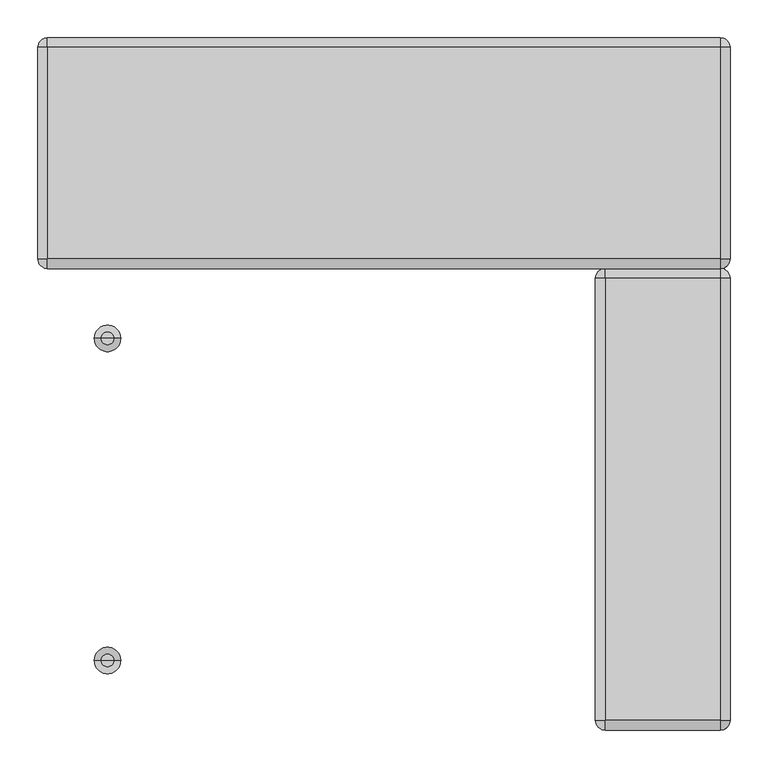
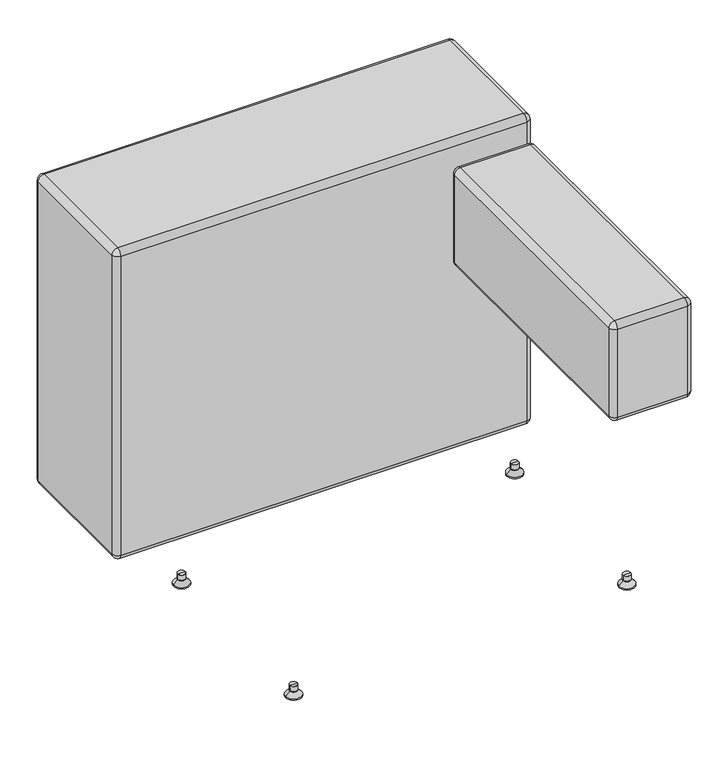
"""IFC4 building model written with IfcOpenShell, lengths in millimetres: furniture geometry, KFI Studios - Conversa : 24”x36” Seat - Left Corner, Small Arm."""

from ifc_helpers import new_model, si_unit, point, frame, origin, place, context, project, spatial, polyline, circle_curve, ellipse_curve, trimmed, source, transform, mapped, element, save
from ifc_brep_helpers import plane_surface, cylinder_surface, revolved_surface, advanced_brep


def furniture_8cec5439(model_context):
    return source(origin(), model_context, "Body", "AdvancedBrep", [
        advanced_brep(
        [(279.4, 292.1, 673.1), (279.4, -292.1, 673.1), (292.1, -292.1, 685.8), (292.1, 292.1, 685.8), (279.4, 292.1, 469.9), (279.4, -292.1, 469.9), (292.1, 292.1, 457.2), (292.1, -292.1, 457.2), (292.1, -304.8, 673.1), (444.5, -304.8, 673.1), (444.5, -292.1, 685.8), (292.1, -304.8, 469.9), (444.5, -304.8, 469.9), (444.5, -292.1, 457.2), (444.5, 292.1, 685.8), (444.5, 292.1, 457.2), (444.5, 304.8, 673.1), (292.1, 304.8, 673.1), (444.5, 304.8, 469.9), (292.1, 304.8, 469.9), (457.2, -292.1, 673.1), (457.2, 292.1, 673.1), (457.2, -292.1, 469.9), (457.2, 292.1, 469.9)],
        [
            (0, 1),
            (1, 2, circle_curve(frame((292.1, -292.1, 673.1), z_axis=(0.0, 1.0, 0.0), x_axis=(-1.0, 0.0, 0.0)), 12.7)),
            (2, 3),
            (3, 0, circle_curve(frame((292.1, 292.1, 673.1), z_axis=(0.0, -1.0, 0.0), x_axis=(-1.0, 0.0, 0.0)), 12.7)),
            (0, 4),
            (4, 5),
            (5, 1),
            (4, 6, circle_curve(frame((292.1, 292.1, 469.9), z_axis=(0.0, -1.0, 0.0), x_axis=(-1.0, 0.0, 0.0)), 12.7)),
            (6, 7),
            (7, 5, circle_curve(frame((292.1, -292.1, 469.9), z_axis=(0.0, 1.0, 0.0), x_axis=(-1.0, 0.0, 0.0)), 12.7)),
            (8, 9),
            (9, 10, circle_curve(frame((444.5, -292.1, 673.1), z_axis=(-1.0, 0.0, 0.0), x_axis=(0.0, 1.0, 0.0)), 12.7)),
            (10, 2),
            (2, 8, circle_curve(frame((292.1, -292.1, 673.1), z_axis=(1.0, 0.0, 0.0), x_axis=(0.0, 1.0, 0.0)), 12.7)),
            (8, 11),
            (11, 12),
            (12, 9),
            (11, 7, circle_curve(frame((292.1, -292.1, 469.9), z_axis=(1.0, 0.0, 0.0), x_axis=(0.0, 1.0, 0.0)), 12.7)),
            (7, 13),
            (13, 12, circle_curve(frame((444.5, -292.1, 469.9), z_axis=(-1.0, 0.0, 0.0), x_axis=(0.0, 1.0, 0.0)), 12.7)),
            (10, 14),
            (14, 3),
            (6, 15),
            (15, 13),
            (16, 17),
            (17, 3, circle_curve(frame((292.1, 292.1, 673.1), z_axis=(1.0, 0.0, 0.0), x_axis=(0.0, 1.0, 0.0)), 12.7)),
            (14, 16, circle_curve(frame((444.5, 292.1, 673.1), z_axis=(-1.0, 0.0, 0.0), x_axis=(0.0, 1.0, 0.0)), 12.7)),
            (16, 18),
            (18, 19),
            (19, 17),
            (18, 15, circle_curve(frame((444.5, 292.1, 469.9), z_axis=(-1.0, 0.0, 0.0), x_axis=(0.0, 1.0, 0.0)), 12.7)),
            (6, 19, circle_curve(frame((292.1, 292.1, 469.9), z_axis=(1.0, 0.0, 0.0), x_axis=(0.0, 1.0, 0.0)), 12.7)),
            (20, 21),
            (21, 14, circle_curve(frame((444.5, 292.1, 673.1), z_axis=(0.0, -1.0, 0.0), x_axis=(-1.0, 0.0, 0.0)), 12.7)),
            (10, 20, circle_curve(frame((444.5, -292.1, 673.1), z_axis=(0.0, 1.0, 0.0), x_axis=(-1.0, 0.0, 0.0)), 12.7)),
            (20, 22),
            (22, 23),
            (23, 21),
            (22, 13, circle_curve(frame((444.5, -292.1, 469.9), z_axis=(0.0, 1.0, 0.0), x_axis=(-1.0, 0.0, 0.0)), 12.7)),
            (15, 23, circle_curve(frame((444.5, 292.1, 469.9), z_axis=(0.0, -1.0, 0.0), x_axis=(-1.0, 0.0, 0.0)), 12.7)),
            (19, 4, circle_curve(frame((292.1, 292.1, 469.9), z_axis=(0.0, 0.0, 1.0), x_axis=(-1.0, 0.0, 0.0)), 12.7)),
            (0, 17, circle_curve(frame((292.1, 292.1, 673.1), z_axis=(0.0, 0.0, -1.0), x_axis=(-1.0, 0.0, 0.0)), 12.7)),
            (8, 1, circle_curve(frame((292.1, -292.1, 673.1), z_axis=(0.0, 0.0, -1.0), x_axis=(-1.0, 0.0, 0.0)), 12.7)),
            (5, 11, circle_curve(frame((292.1, -292.1, 469.9), z_axis=(0.0, 0.0, 1.0), x_axis=(-1.0, 0.0, 0.0)), 12.7)),
            (12, 22, circle_curve(frame((444.5, -292.1, 469.9), z_axis=(0.0, 0.0, 1.0), x_axis=(1.0, 0.0, 0.0)), 12.7)),
            (20, 9, circle_curve(frame((444.5, -292.1, 673.1), z_axis=(0.0, 0.0, -1.0), x_axis=(1.0, 0.0, 0.0)), 12.7)),
            (16, 21, circle_curve(frame((444.5, 292.1, 673.1), z_axis=(0.0, 0.0, -1.0), x_axis=(1.0, 0.0, 0.0)), 12.7)),
            (23, 18, circle_curve(frame((444.5, 292.1, 469.9), z_axis=(0.0, 0.0, 1.0), x_axis=(1.0, 0.0, 0.0)), 12.7)),
        ],
        [
            cylinder_surface(frame((292.1, -292.1, 673.1), z_axis=(0.0, -1.0, 0.0), x_axis=(-1.0, 0.0, 0.0)), 12.7),
            plane_surface(frame((279.4, -292.1, 673.1), z_axis=(-1.0, 0.0, 0.0), x_axis=(0.0, 1.0, 0.0))),
            cylinder_surface(frame((292.1, -292.1, 469.9), z_axis=(0.0, -1.0, 0.0), x_axis=(-1.0, 0.0, 0.0)), 12.7),
            cylinder_surface(frame((292.1, -292.1, 673.1), z_axis=(-1.0, 0.0, 0.0), x_axis=(0.0, 1.0, 0.0)), 12.7),
            plane_surface(frame((292.1, -304.8, 469.9), z_axis=(0.0, -1.0, 0.0), x_axis=(1.0, 0.0, 0.0))),
            cylinder_surface(frame((292.1, -292.1, 469.9), z_axis=(-1.0, 0.0, 0.0), x_axis=(0.0, 1.0, 0.0)), 12.7),
            plane_surface(frame((292.1, 292.1, 685.8), z_axis=(0.0, 0.0, 1.0), x_axis=(-1.0, 0.0, 0.0))),
            plane_surface(frame((292.1, 292.1, 457.2), z_axis=(0.0, 0.0, -1.0), x_axis=(1.0, 0.0, 0.0))),
            cylinder_surface(frame((292.1, 292.1, 673.1), z_axis=(-1.0, 0.0, 0.0), x_axis=(0.0, 1.0, 0.0)), 12.7),
            plane_surface(frame((292.1, 304.8, 673.1), z_axis=(0.0, 1.0, 0.0), x_axis=(1.0, 0.0, 0.0))),
            cylinder_surface(frame((292.1, 292.1, 469.9), z_axis=(-1.0, 0.0, 0.0), x_axis=(0.0, 1.0, 0.0)), 12.7),
            cylinder_surface(frame((444.5, -292.1, 673.1), z_axis=(0.0, -1.0, 0.0), x_axis=(-1.0, 0.0, 0.0)), 12.7),
            plane_surface(frame((457.2, -292.1, 469.9), z_axis=(1.0, 0.0, 0.0), x_axis=(0.0, 1.0, 0.0))),
            cylinder_surface(frame((444.5, -292.1, 469.9), z_axis=(0.0, -1.0, 0.0), x_axis=(-1.0, 0.0, 0.0)), 12.7),
            cylinder_surface(frame((292.1, 292.1, 685.8), z_axis=(0.0, 0.0, 1.0), x_axis=(-1.0, 0.0, 0.0)), 12.7),
            revolved_surface(trimmed(ellipse_curve(frame((292.1, 292.1, 469.9), z_axis=(0.0, 1.0, 0.0), x_axis=(0.0, 0.0, 1.0)), 12.7, 12.7), [point((292.1, 292.1, 457.2))], [point((279.4, 292.1, 469.9))], True, "CARTESIAN"), (292.1, 292.1, 685.8), (0.0, 0.0, 1.0)),
            revolved_surface(trimmed(ellipse_curve(frame((292.1, 292.1, 673.1), z_axis=(0.0, 1.0, 0.0), x_axis=(0.0, 0.0, 1.0)), 12.7, 12.7), [point((279.4, 292.1, 673.1))], [point((292.1, 292.1, 685.8))], True, "CARTESIAN"), (292.1, 292.1, 685.8), (0.0, 0.0, 1.0)),
            cylinder_surface(frame((292.1, -292.1, 535.5189642), z_axis=(0.0, 0.0, -1.0), x_axis=(-1.0, 0.0, 0.0)), 12.7),
            revolved_surface(trimmed(ellipse_curve(frame((292.1, -292.1, 673.1), z_axis=(0.0, -1.0, 0.0), x_axis=(1.0, 0.0, 0.0)), 12.7, 12.7), [point((292.1, -292.1, 685.8))], [point((279.4, -292.1, 673.1))], True, "CARTESIAN"), (292.1, -292.1, 535.5189642), (0.0, 0.0, -1.0)),
            revolved_surface(trimmed(ellipse_curve(frame((292.1, -292.1, 469.9), z_axis=(0.0, -1.0, 0.0), x_axis=(1.0, 0.0, 0.0)), 12.7, 12.7), [point((279.4, -292.1, 469.9))], [point((292.1, -292.1, 457.2))], True, "CARTESIAN"), (292.1, -292.1, 535.5189642), (0.0, 0.0, -1.0)),
            cylinder_surface(frame((444.5, -292.1, 685.8), z_axis=(0.0, 0.0, 1.0), x_axis=(1.0, 0.0, 0.0)), 12.7),
            revolved_surface(trimmed(ellipse_curve(frame((444.5, -292.1, 469.9), z_axis=(0.0, -1.0, 0.0), x_axis=(1.0, 0.0, 0.0)), 12.7, 12.7), [point((444.5, -292.1, 457.2))], [point((457.2, -292.1, 469.9))], True, "CARTESIAN"), (444.5, -292.1, 685.8), (0.0, 0.0, 1.0)),
            revolved_surface(trimmed(ellipse_curve(frame((444.5, -292.1, 673.1), z_axis=(0.0, -1.0, 0.0), x_axis=(1.0, 0.0, 0.0)), 12.7, 12.7), [point((457.2, -292.1, 673.1))], [point((444.5, -292.1, 685.8))], True, "CARTESIAN"), (444.5, -292.1, 685.8), (0.0, 0.0, 1.0)),
            cylinder_surface(frame((444.5, 292.1, 535.5189642), z_axis=(0.0, 0.0, -1.0), x_axis=(1.0, 0.0, 0.0)), 12.7),
            revolved_surface(trimmed(ellipse_curve(frame((444.5, 292.1, 673.1), z_axis=(0.0, 1.0, 0.0), x_axis=(0.0, 0.0, 1.0)), 12.7, 12.7), [point((444.5, 292.1, 685.8))], [point((457.2, 292.1, 673.1))], True, "CARTESIAN"), (444.5, 292.1, 535.5189642), (0.0, 0.0, -1.0)),
            revolved_surface(trimmed(ellipse_curve(frame((444.5, 292.1, 469.9), z_axis=(0.0, 1.0, 0.0), x_axis=(0.0, 0.0, 1.0)), 12.7, 12.7), [point((457.2, 292.1, 469.9))], [point((444.5, 292.1, 457.2))], True, "CARTESIAN"), (444.5, 292.1, 535.5189642), (0.0, 0.0, -1.0)),
        ],
        [
            (0, [[1, 2, 3, 4]]),
            (1, [[-1, 5, 6, 7]]),
            (2, [[-6, 8, 9, 10]]),
            (3, [[11, 12, 13, 14]]),
            (4, [[-11, 15, 16, 17]]),
            (5, [[-16, 18, 19, 20]]),
            (6, [[-3, -13, 21, 22]]),
            (7, [[-9, 23, 24, -19]]),
            (8, [[25, 26, -22, 27]]),
            (9, [[-25, 28, 29, 30]]),
            (10, [[-29, 31, -23, 32]]),
            (11, [[33, 34, -21, 35]]),
            (12, [[-33, 36, 37, 38]]),
            (13, [[-37, 39, -24, 40]]),
            (14, [[41, -5, 42, -30]]),
            (15, [[-41, -32, -8]]),
            (16, [[-42, -4, -26]]),
            (17, [[43, -7, 44, -15]]),
            (18, [[-43, -14, -2]]),
            (19, [[-44, -10, -18]]),
            (20, [[45, -36, 46, -17]]),
            (21, [[-45, -20, -39]]),
            (22, [[-46, -35, -12]]),
            (23, [[47, -38, 48, -28]]),
            (24, [[-47, -27, -34]]),
            (25, [[-48, -40, -31]]),
        ],
    ),
        advanced_brep(
        [(373.3895895, 517.525, 25.4), (365.125, 517.525, 25.4), (356.8604105, 517.525, 25.4), (373.3895895, 517.525, 14.2843611), (356.8604105, 517.525, 14.2843611), (371.7876354, 517.525, 14.2843611), (358.4623646, 517.525, 14.2843611), (371.7876354, 517.525, 12.7064551), (358.4623646, 517.525, 12.7064551), (373.3890671, 517.525, 12.7064551), (356.8609329, 517.525, 12.7064551), (382.5741215, 517.525, 3.1950529), (347.6758785, 517.525, 3.1950529), (382.5741215, 517.525, 0.0), (347.6758785, 517.525, 0.0), (365.125, 517.525, 0.0)],
        [
            (0, 1),
            (1, 2),
            (2, 0, circle_curve(frame((365.125, 517.525, 25.4), z_axis=(0.0, 0.0, 1.0), x_axis=(-1.0, 0.0, 0.0)), 8.2645895)),
            (0, 2, circle_curve(frame((365.125, 517.525, 25.4), z_axis=(0.0, 0.0, 1.0), x_axis=(-1.0, 0.0, 0.0)), 8.2645895)),
            (3, 0),
            (2, 4),
            (4, 3, circle_curve(frame((365.125, 517.525, 14.2843611), z_axis=(0.0, 0.0, 1.0), x_axis=(-1.0, 0.0, 0.0)), 8.2645895)),
            (3, 4, circle_curve(frame((365.125, 517.525, 14.2843611), z_axis=(0.0, 0.0, 1.0), x_axis=(-1.0, 0.0, 0.0)), 8.2645895)),
            (5, 3),
            (4, 6),
            (6, 5, circle_curve(frame((365.125, 517.525, 14.2843611), z_axis=(0.0, 0.0, 1.0), x_axis=(-1.0, 0.0, 0.0)), 6.6626354)),
            (5, 6, circle_curve(frame((365.125, 517.525, 14.2843611), z_axis=(0.0, 0.0, 1.0), x_axis=(-1.0, 0.0, 0.0)), 6.6626354)),
            (7, 5),
            (6, 8),
            (8, 7, circle_curve(frame((365.125, 517.525, 12.7064551), z_axis=(0.0, 0.0, 1.0), x_axis=(-1.0, 0.0, 0.0)), 6.6626354)),
            (7, 8, circle_curve(frame((365.125, 517.525, 12.7064551), z_axis=(0.0, 0.0, 1.0), x_axis=(-1.0, 0.0, 0.0)), 6.6626354)),
            (9, 7),
            (8, 10),
            (10, 9, circle_curve(frame((365.125, 517.525, 12.7064551), z_axis=(0.0, 0.0, 1.0), x_axis=(-1.0, 0.0, 0.0)), 8.2640671)),
            (9, 10, circle_curve(frame((365.125, 517.525, 12.7064551), z_axis=(0.0, 0.0, 1.0), x_axis=(-1.0, 0.0, 0.0)), 8.2640671)),
            (11, 9),
            (10, 12),
            (12, 11, circle_curve(frame((365.125, 517.525, 3.1950529), z_axis=(0.0, 0.0, 1.0), x_axis=(-1.0, 0.0, 0.0)), 17.4491215)),
            (11, 12, circle_curve(frame((365.125, 517.525, 3.1950529), z_axis=(0.0, 0.0, 1.0), x_axis=(-1.0, 0.0, 0.0)), 17.4491215)),
            (13, 11),
            (12, 14),
            (14, 13, circle_curve(frame((365.125, 517.525, 0.0), z_axis=(0.0, 0.0, 1.0), x_axis=(-1.0, 0.0, 0.0)), 17.4491215)),
            (13, 14, circle_curve(frame((365.125, 517.525, 0.0), z_axis=(0.0, 0.0, 1.0), x_axis=(-1.0, 0.0, 0.0)), 17.4491215)),
            (15, 13),
            (14, 15),
        ],
        [
            plane_surface(frame((365.125, 517.525, 25.4), z_axis=(0.0, 0.0, 1.0), x_axis=(-1.0, 0.0, 0.0))),
            cylinder_surface(frame((365.125, 517.525, 33.820929), z_axis=(0.0, 0.0, -1.0), x_axis=(-1.0, 0.0, 0.0)), 8.2645895),
            plane_surface(frame((365.125, 517.525, 14.2843611), z_axis=(0.0, 0.0, -1.0), x_axis=(-1.0, 0.0, 0.0))),
            cylinder_surface(frame((365.125, 517.525, 33.820929), z_axis=(0.0, 0.0, -1.0), x_axis=(-1.0, 0.0, 0.0)), 6.6626354),
            plane_surface(frame((365.125, 517.525, 12.7064551), z_axis=(0.0, 0.0, 1.0), x_axis=(-1.0, 0.0, 0.0))),
            revolved_surface(polyline([(356.8609329, 517.525, 12.7064551), (347.6758785, 517.525, 3.1950529)]), (365.125, 517.525, 33.820929), (0.0, 0.0, -1.0)),
            cylinder_surface(frame((365.125, 517.525, 33.820929), z_axis=(0.0, 0.0, -1.0), x_axis=(-1.0, 0.0, 0.0)), 17.4491215),
            plane_surface(frame((365.125, 517.525, 0.0), z_axis=(0.0, 0.0, -1.0), x_axis=(-1.0, 0.0, 0.0))),
        ],
        [
            (0, [[1, 2, 3]]),
            (0, [[-2, -1, 4]]),
            (1, [[5, -3, 6, 7]]),
            (1, [[-6, -4, -5, 8]]),
            (2, [[9, -7, 10, 11]]),
            (2, [[-10, -8, -9, 12]]),
            (3, [[13, -11, 14, 15]]),
            (3, [[-14, -12, -13, 16]]),
            (4, [[17, -15, 18, 19]]),
            (4, [[-18, -16, -17, 20]]),
            (5, [[21, -19, 22, 23]]),
            (5, [[-22, -20, -21, 24]]),
            (6, [[25, -23, 26, 27]]),
            (6, [[-26, -24, -25, 28]]),
            (7, [[29, -27, 30]]),
            (7, [[-30, -28, -29]]),
        ],
    ),
        advanced_brep(
        [(-356.8604105, 517.525, 25.4), (-365.125, 517.525, 25.4), (-373.3895895, 517.525, 25.4), (-356.8604105, 517.525, 14.2843611), (-373.3895895, 517.525, 14.2843611), (-358.4623646, 517.525, 14.2843611), (-371.7876354, 517.525, 14.2843611), (-358.4623646, 517.525, 12.7064551), (-371.7876354, 517.525, 12.7064551), (-356.8609329, 517.525, 12.7064551), (-373.3890671, 517.525, 12.7064551), (-347.6758785, 517.525, 3.1950529), (-382.5741215, 517.525, 3.1950529), (-347.6758785, 517.525, 0.0), (-382.5741215, 517.525, 0.0), (-365.125, 517.525, 0.0)],
        [
            (0, 1),
            (1, 2),
            (2, 0, circle_curve(frame((-365.125, 517.525, 25.4), z_axis=(0.0, 0.0, 1.0), x_axis=(-1.0, 0.0, 0.0)), 8.2645895)),
            (0, 2, circle_curve(frame((-365.125, 517.525, 25.4), z_axis=(0.0, 0.0, 1.0), x_axis=(-1.0, 0.0, 0.0)), 8.2645895)),
            (3, 0),
            (2, 4),
            (4, 3, circle_curve(frame((-365.125, 517.525, 14.2843611), z_axis=(0.0, 0.0, 1.0), x_axis=(-1.0, 0.0, 0.0)), 8.2645895)),
            (3, 4, circle_curve(frame((-365.125, 517.525, 14.2843611), z_axis=(0.0, 0.0, 1.0), x_axis=(-1.0, 0.0, 0.0)), 8.2645895)),
            (5, 3),
            (4, 6),
            (6, 5, circle_curve(frame((-365.125, 517.525, 14.2843611), z_axis=(0.0, 0.0, 1.0), x_axis=(-1.0, 0.0, 0.0)), 6.6626354)),
            (5, 6, circle_curve(frame((-365.125, 517.525, 14.2843611), z_axis=(0.0, 0.0, 1.0), x_axis=(-1.0, 0.0, 0.0)), 6.6626354)),
            (7, 5),
            (6, 8),
            (8, 7, circle_curve(frame((-365.125, 517.525, 12.7064551), z_axis=(0.0, 0.0, 1.0), x_axis=(-1.0, 0.0, 0.0)), 6.6626354)),
            (7, 8, circle_curve(frame((-365.125, 517.525, 12.7064551), z_axis=(0.0, 0.0, 1.0), x_axis=(-1.0, 0.0, 0.0)), 6.6626354)),
            (9, 7),
            (8, 10),
            (10, 9, circle_curve(frame((-365.125, 517.525, 12.7064551), z_axis=(0.0, 0.0, 1.0), x_axis=(-1.0, 0.0, 0.0)), 8.2640671)),
            (9, 10, circle_curve(frame((-365.125, 517.525, 12.7064551), z_axis=(0.0, 0.0, 1.0), x_axis=(-1.0, 0.0, 0.0)), 8.2640671)),
            (11, 9),
            (10, 12),
            (12, 11, circle_curve(frame((-365.125, 517.525, 3.1950529), z_axis=(0.0, 0.0, 1.0), x_axis=(-1.0, 0.0, 0.0)), 17.4491215)),
            (11, 12, circle_curve(frame((-365.125, 517.525, 3.1950529), z_axis=(0.0, 0.0, 1.0), x_axis=(-1.0, 0.0, 0.0)), 17.4491215)),
            (13, 11),
            (12, 14),
            (14, 13, circle_curve(frame((-365.125, 517.525, 0.0), z_axis=(0.0, 0.0, 1.0), x_axis=(-1.0, 0.0, 0.0)), 17.4491215)),
            (13, 14, circle_curve(frame((-365.125, 517.525, 0.0), z_axis=(0.0, 0.0, 1.0), x_axis=(-1.0, 0.0, 0.0)), 17.4491215)),
            (15, 13),
            (14, 15),
        ],
        [
            plane_surface(frame((-365.125, 517.525, 25.4), z_axis=(0.0, 0.0, 1.0), x_axis=(-1.0, 0.0, 0.0))),
            cylinder_surface(frame((-365.125, 517.525, 33.820929), z_axis=(0.0, 0.0, -1.0), x_axis=(-1.0, 0.0, 0.0)), 8.2645895),
            plane_surface(frame((-365.125, 517.525, 14.2843611), z_axis=(0.0, 0.0, -1.0), x_axis=(-1.0, 0.0, 0.0))),
            cylinder_surface(frame((-365.125, 517.525, 33.820929), z_axis=(0.0, 0.0, -1.0), x_axis=(-1.0, 0.0, 0.0)), 6.6626354),
            plane_surface(frame((-365.125, 517.525, 12.7064551), z_axis=(0.0, 0.0, 1.0), x_axis=(-1.0, 0.0, 0.0))),
            revolved_surface(polyline([(-373.3890671, 517.525, 12.7064551), (-382.5741215, 517.525, 3.1950529)]), (-365.125, 517.525, 33.820929), (0.0, 0.0, -1.0)),
            cylinder_surface(frame((-365.125, 517.525, 33.820929), z_axis=(0.0, 0.0, -1.0), x_axis=(-1.0, 0.0, 0.0)), 17.4491215),
            plane_surface(frame((-365.125, 517.525, 0.0), z_axis=(0.0, 0.0, -1.0), x_axis=(-1.0, 0.0, 0.0))),
        ],
        [
            (0, [[1, 2, 3]]),
            (0, [[-2, -1, 4]]),
            (1, [[5, -3, 6, 7]]),
            (1, [[-6, -4, -5, 8]]),
            (2, [[9, -7, 10, 11]]),
            (2, [[-10, -8, -9, 12]]),
            (3, [[13, -11, 14, 15]]),
            (3, [[-14, -12, -13, 16]]),
            (4, [[17, -15, 18, 19]]),
            (4, [[-18, -16, -17, 20]]),
            (5, [[21, -19, 22, 23]]),
            (5, [[-22, -20, -21, 24]]),
            (6, [[25, -23, 26, 27]]),
            (6, [[-26, -24, -25, 28]]),
            (7, [[29, -27, 30]]),
            (7, [[-30, -28, -29]]),
        ],
    ),
        advanced_brep(
        [(-457.2, 596.9, 730.25), (-457.2, 317.5, 730.25), (-444.5, 317.5, 742.95), (-444.5, 596.9, 742.95), (-457.2, 596.9, 38.1), (-457.2, 317.5, 38.1), (-444.5, 596.9, 25.4), (-444.5, 317.5, 25.4), (-444.5, 304.8, 730.25), (444.5, 304.8, 730.25), (444.5, 317.5, 742.95), (-444.5, 304.8, 38.1), (444.5, 304.8, 38.1), (444.5, 317.5, 25.4), (444.5, 596.9, 742.95), (444.5, 596.9, 25.4), (444.5, 609.6, 730.25), (-444.5, 609.6, 730.25), (444.5, 609.6, 38.1), (-444.5, 609.6, 38.1), (457.2, 317.5, 730.25), (457.2, 596.9, 730.25), (457.2, 317.5, 38.1), (457.2, 596.9, 38.1)],
        [
            (0, 1),
            (1, 2, circle_curve(frame((-444.5, 317.5, 730.25), z_axis=(0.0, 1.0, 0.0), x_axis=(-1.0, 0.0, 0.0)), 12.7)),
            (2, 3),
            (3, 0, circle_curve(frame((-444.5, 596.9, 730.25), z_axis=(0.0, -1.0, 0.0), x_axis=(-1.0, 0.0, 0.0)), 12.7)),
            (0, 4),
            (4, 5),
            (5, 1),
            (4, 6, circle_curve(frame((-444.5, 596.9, 38.1), z_axis=(0.0, -1.0, 0.0), x_axis=(-1.0, 0.0, 0.0)), 12.7)),
            (6, 7),
            (7, 5, circle_curve(frame((-444.5, 317.5, 38.1), z_axis=(0.0, 1.0, 0.0), x_axis=(-1.0, 0.0, 0.0)), 12.7)),
            (8, 9),
            (9, 10, circle_curve(frame((444.5, 317.5, 730.25), z_axis=(-1.0, 0.0, 0.0), x_axis=(0.0, 1.0, 0.0)), 12.7)),
            (10, 2),
            (2, 8, circle_curve(frame((-444.5, 317.5, 730.25), z_axis=(1.0, 0.0, 0.0), x_axis=(0.0, 1.0, 0.0)), 12.7)),
            (8, 11),
            (11, 12),
            (12, 9),
            (11, 7, circle_curve(frame((-444.5, 317.5, 38.1), z_axis=(1.0, 0.0, 0.0), x_axis=(0.0, 1.0, 0.0)), 12.7)),
            (7, 13),
            (13, 12, circle_curve(frame((444.5, 317.5, 38.1), z_axis=(-1.0, 0.0, 0.0), x_axis=(0.0, 1.0, 0.0)), 12.7)),
            (10, 14),
            (14, 3),
            (6, 15),
            (15, 13),
            (16, 17),
            (17, 3, circle_curve(frame((-444.5, 596.9, 730.25), z_axis=(1.0, 0.0, 0.0), x_axis=(0.0, 1.0, 0.0)), 12.7)),
            (14, 16, circle_curve(frame((444.5, 596.9, 730.25), z_axis=(-1.0, 0.0, 0.0), x_axis=(0.0, 1.0, 0.0)), 12.7)),
            (16, 18),
            (18, 19),
            (19, 17),
            (18, 15, circle_curve(frame((444.5, 596.9, 38.1), z_axis=(-1.0, 0.0, 0.0), x_axis=(0.0, 1.0, 0.0)), 12.7)),
            (6, 19, circle_curve(frame((-444.5, 596.9, 38.1), z_axis=(1.0, 0.0, 0.0), x_axis=(0.0, 1.0, 0.0)), 12.7)),
            (20, 21),
            (21, 14, circle_curve(frame((444.5, 596.9, 730.25), z_axis=(0.0, -1.0, 0.0), x_axis=(-1.0, 0.0, 0.0)), 12.7)),
            (10, 20, circle_curve(frame((444.5, 317.5, 730.25), z_axis=(0.0, 1.0, 0.0), x_axis=(-1.0, 0.0, 0.0)), 12.7)),
            (20, 22),
            (22, 23),
            (23, 21),
            (22, 13, circle_curve(frame((444.5, 317.5, 38.1), z_axis=(0.0, 1.0, 0.0), x_axis=(-1.0, 0.0, 0.0)), 12.7)),
            (15, 23, circle_curve(frame((444.5, 596.9, 38.1), z_axis=(0.0, -1.0, 0.0), x_axis=(-1.0, 0.0, 0.0)), 12.7)),
            (19, 4, circle_curve(frame((-444.5, 596.9, 38.1), z_axis=(0.0, 0.0, 1.0), x_axis=(-1.0, 0.0, 0.0)), 12.7)),
            (0, 17, circle_curve(frame((-444.5, 596.9, 730.25), z_axis=(0.0, 0.0, -1.0), x_axis=(-1.0, 0.0, 0.0)), 12.7)),
            (8, 1, circle_curve(frame((-444.5, 317.5, 730.25), z_axis=(0.0, 0.0, -1.0), x_axis=(-1.0, 0.0, 0.0)), 12.7)),
            (5, 11, circle_curve(frame((-444.5, 317.5, 38.1), z_axis=(0.0, 0.0, 1.0), x_axis=(-1.0, 0.0, 0.0)), 12.7)),
            (12, 22, circle_curve(frame((444.5, 317.5, 38.1), z_axis=(0.0, 0.0, 1.0), x_axis=(1.0, 0.0, 0.0)), 12.7)),
            (20, 9, circle_curve(frame((444.5, 317.5, 730.25), z_axis=(0.0, 0.0, -1.0), x_axis=(1.0, 0.0, 0.0)), 12.7)),
            (16, 21, circle_curve(frame((444.5, 596.9, 730.25), z_axis=(0.0, 0.0, -1.0), x_axis=(1.0, 0.0, 0.0)), 12.7)),
            (23, 18, circle_curve(frame((444.5, 596.9, 38.1), z_axis=(0.0, 0.0, 1.0), x_axis=(1.0, 0.0, 0.0)), 12.7)),
        ],
        [
            cylinder_surface(frame((-444.5, 317.5, 730.25), z_axis=(0.0, -1.0, 0.0), x_axis=(-1.0, 0.0, 0.0)), 12.7),
            plane_surface(frame((-457.2, 317.5, 730.25), z_axis=(-1.0, 0.0, 0.0), x_axis=(0.0, 1.0, 0.0))),
            cylinder_surface(frame((-444.5, 317.5, 38.1), z_axis=(0.0, -1.0, 0.0), x_axis=(-1.0, 0.0, 0.0)), 12.7),
            cylinder_surface(frame((-444.5, 317.5, 730.25), z_axis=(-1.0, 0.0, 0.0), x_axis=(0.0, 1.0, 0.0)), 12.7),
            plane_surface(frame((-444.5, 304.8, 38.1), z_axis=(0.0, -1.0, 0.0), x_axis=(1.0, 0.0, 0.0))),
            cylinder_surface(frame((-444.5, 317.5, 38.1), z_axis=(-1.0, 0.0, 0.0), x_axis=(0.0, 1.0, 0.0)), 12.7),
            plane_surface(frame((-444.5, 596.9, 742.95), z_axis=(0.0, 0.0, 1.0), x_axis=(-1.0, 0.0, 0.0))),
            plane_surface(frame((-444.5, 596.9, 25.4), z_axis=(0.0, 0.0, -1.0), x_axis=(1.0, 0.0, 0.0))),
            cylinder_surface(frame((-444.5, 596.9, 730.25), z_axis=(-1.0, 0.0, 0.0), x_axis=(0.0, 1.0, 0.0)), 12.7),
            plane_surface(frame((-444.5, 609.6, 730.25), z_axis=(0.0, 1.0, 0.0), x_axis=(1.0, 0.0, 0.0))),
            cylinder_surface(frame((-444.5, 596.9, 38.1), z_axis=(-1.0, 0.0, 0.0), x_axis=(0.0, 1.0, 0.0)), 12.7),
            cylinder_surface(frame((444.5, 317.5, 730.25), z_axis=(0.0, -1.0, 0.0), x_axis=(-1.0, 0.0, 0.0)), 12.7),
            plane_surface(frame((457.2, 317.5, 38.1), z_axis=(1.0, 0.0, 0.0), x_axis=(0.0, 1.0, 0.0))),
            cylinder_surface(frame((444.5, 317.5, 38.1), z_axis=(0.0, -1.0, 0.0), x_axis=(-1.0, 0.0, 0.0)), 12.7),
            cylinder_surface(frame((-444.5, 596.9, 742.95), z_axis=(0.0, 0.0, 1.0), x_axis=(-1.0, 0.0, 0.0)), 12.7),
            revolved_surface(trimmed(ellipse_curve(frame((-444.5, 596.9, 38.1), z_axis=(0.0, 1.0, 0.0), x_axis=(0.0, 0.0, 1.0)), 12.7, 12.7), [point((-444.5, 596.9, 25.4))], [point((-457.2, 596.9, 38.1))], True, "CARTESIAN"), (-444.5, 596.9, 742.95), (0.0, 0.0, 1.0)),
            revolved_surface(trimmed(ellipse_curve(frame((-444.5, 596.9, 730.25), z_axis=(0.0, 1.0, 0.0), x_axis=(0.0, 0.0, 1.0)), 12.7, 12.7), [point((-457.2, 596.9, 730.25))], [point((-444.5, 596.9, 742.95))], True, "CARTESIAN"), (-444.5, 596.9, 742.95), (0.0, 0.0, 1.0)),
            cylinder_surface(frame((-444.5, 317.5, 592.6689642), z_axis=(0.0, 0.0, -1.0), x_axis=(-1.0, 0.0, 0.0)), 12.7),
            revolved_surface(trimmed(ellipse_curve(frame((-444.5, 317.5, 730.25), z_axis=(0.0, -1.0, 0.0), x_axis=(1.0, 0.0, 0.0)), 12.7, 12.7), [point((-444.5, 317.5, 742.95))], [point((-457.2, 317.5, 730.25))], True, "CARTESIAN"), (-444.5, 317.5, 592.6689642), (0.0, 0.0, -1.0)),
            revolved_surface(trimmed(ellipse_curve(frame((-444.5, 317.5, 38.1), z_axis=(0.0, -1.0, 0.0), x_axis=(1.0, 0.0, 0.0)), 12.7, 12.7), [point((-457.2, 317.5, 38.1))], [point((-444.5, 317.5, 25.4))], True, "CARTESIAN"), (-444.5, 317.5, 592.6689642), (0.0, 0.0, -1.0)),
            cylinder_surface(frame((444.5, 317.5, 742.95), z_axis=(0.0, 0.0, 1.0), x_axis=(1.0, 0.0, 0.0)), 12.7),
            revolved_surface(trimmed(ellipse_curve(frame((444.5, 317.5, 38.1), z_axis=(0.0, -1.0, 0.0), x_axis=(1.0, 0.0, 0.0)), 12.7, 12.7), [point((444.5, 317.5, 25.4))], [point((457.2, 317.5, 38.1))], True, "CARTESIAN"), (444.5, 317.5, 742.95), (0.0, 0.0, 1.0)),
            revolved_surface(trimmed(ellipse_curve(frame((444.5, 317.5, 730.25), z_axis=(0.0, -1.0, 0.0), x_axis=(1.0, 0.0, 0.0)), 12.7, 12.7), [point((457.2, 317.5, 730.25))], [point((444.5, 317.5, 742.95))], True, "CARTESIAN"), (444.5, 317.5, 742.95), (0.0, 0.0, 1.0)),
            cylinder_surface(frame((444.5, 596.9, 592.6689642), z_axis=(0.0, 0.0, -1.0), x_axis=(1.0, 0.0, 0.0)), 12.7),
            revolved_surface(trimmed(ellipse_curve(frame((444.5, 596.9, 730.25), z_axis=(0.0, 1.0, 0.0), x_axis=(0.0, 0.0, 1.0)), 12.7, 12.7), [point((444.5, 596.9, 742.95))], [point((457.2, 596.9, 730.25))], True, "CARTESIAN"), (444.5, 596.9, 592.6689642), (0.0, 0.0, -1.0)),
            revolved_surface(trimmed(ellipse_curve(frame((444.5, 596.9, 38.1), z_axis=(0.0, 1.0, 0.0), x_axis=(0.0, 0.0, 1.0)), 12.7, 12.7), [point((457.2, 596.9, 38.1))], [point((444.5, 596.9, 25.4))], True, "CARTESIAN"), (444.5, 596.9, 592.6689642), (0.0, 0.0, -1.0)),
        ],
        [
            (0, [[1, 2, 3, 4]]),
            (1, [[-1, 5, 6, 7]]),
            (2, [[-6, 8, 9, 10]]),
            (3, [[11, 12, 13, 14]]),
            (4, [[-11, 15, 16, 17]]),
            (5, [[-16, 18, 19, 20]]),
            (6, [[-3, -13, 21, 22]]),
            (7, [[-9, 23, 24, -19]]),
            (8, [[25, 26, -22, 27]]),
            (9, [[-25, 28, 29, 30]]),
            (10, [[-29, 31, -23, 32]]),
            (11, [[33, 34, -21, 35]]),
            (12, [[-33, 36, 37, 38]]),
            (13, [[-37, 39, -24, 40]]),
            (14, [[41, -5, 42, -30]]),
            (15, [[-41, -32, -8]]),
            (16, [[-42, -4, -26]]),
            (17, [[43, -7, 44, -15]]),
            (18, [[-43, -14, -2]]),
            (19, [[-44, -10, -18]]),
            (20, [[45, -36, 46, -17]]),
            (21, [[-45, -20, -39]]),
            (22, [[-46, -35, -12]]),
            (23, [[47, -38, 48, -28]]),
            (24, [[-47, -27, -34]]),
            (25, [[-48, -40, -31]]),
        ],
    ),
        advanced_brep(
        [(373.3895895, 212.725, 25.4), (365.125, 212.725, 25.4), (356.8604105, 212.725, 25.4), (373.3895895, 212.725, 14.2843611), (356.8604105, 212.725, 14.2843611), (371.7876354, 212.725, 14.2843611), (358.4623646, 212.725, 14.2843611), (371.7876354, 212.725, 12.7064551), (358.4623646, 212.725, 12.7064551), (373.3890671, 212.725, 12.7064551), (356.8609329, 212.725, 12.7064551), (382.5741215, 212.725, 3.1950529), (347.6758785, 212.725, 3.1950529), (382.5741215, 212.725, 0.0), (347.6758785, 212.725, 0.0), (365.125, 212.725, 0.0)],
        [
            (0, 1),
            (1, 2),
            (2, 0, circle_curve(frame((365.125, 212.725, 25.4), z_axis=(0.0, 0.0, 1.0), x_axis=(-1.0, 0.0, 0.0)), 8.2645895)),
            (0, 2, circle_curve(frame((365.125, 212.725, 25.4), z_axis=(0.0, 0.0, 1.0), x_axis=(-1.0, 0.0, 0.0)), 8.2645895)),
            (3, 0),
            (2, 4),
            (4, 3, circle_curve(frame((365.125, 212.725, 14.2843611), z_axis=(0.0, 0.0, 1.0), x_axis=(-1.0, 0.0, 0.0)), 8.2645895)),
            (3, 4, circle_curve(frame((365.125, 212.725, 14.2843611), z_axis=(0.0, 0.0, 1.0), x_axis=(-1.0, 0.0, 0.0)), 8.2645895)),
            (5, 3),
            (4, 6),
            (6, 5, circle_curve(frame((365.125, 212.725, 14.2843611), z_axis=(0.0, 0.0, 1.0), x_axis=(-1.0, 0.0, 0.0)), 6.6626354)),
            (5, 6, circle_curve(frame((365.125, 212.725, 14.2843611), z_axis=(0.0, 0.0, 1.0), x_axis=(-1.0, 0.0, 0.0)), 6.6626354)),
            (7, 5),
            (6, 8),
            (8, 7, circle_curve(frame((365.125, 212.725, 12.7064551), z_axis=(0.0, 0.0, 1.0), x_axis=(-1.0, 0.0, 0.0)), 6.6626354)),
            (7, 8, circle_curve(frame((365.125, 212.725, 12.7064551), z_axis=(0.0, 0.0, 1.0), x_axis=(-1.0, 0.0, 0.0)), 6.6626354)),
            (9, 7),
            (8, 10),
            (10, 9, circle_curve(frame((365.125, 212.725, 12.7064551), z_axis=(0.0, 0.0, 1.0), x_axis=(-1.0, 0.0, 0.0)), 8.2640671)),
            (9, 10, circle_curve(frame((365.125, 212.725, 12.7064551), z_axis=(0.0, 0.0, 1.0), x_axis=(-1.0, 0.0, 0.0)), 8.2640671)),
            (11, 9),
            (10, 12),
            (12, 11, circle_curve(frame((365.125, 212.725, 3.1950529), z_axis=(0.0, 0.0, 1.0), x_axis=(-1.0, 0.0, 0.0)), 17.4491215)),
            (11, 12, circle_curve(frame((365.125, 212.725, 3.1950529), z_axis=(0.0, 0.0, 1.0), x_axis=(-1.0, 0.0, 0.0)), 17.4491215)),
            (13, 11),
            (12, 14),
            (14, 13, circle_curve(frame((365.125, 212.725, 0.0), z_axis=(0.0, 0.0, 1.0), x_axis=(-1.0, 0.0, 0.0)), 17.4491215)),
            (13, 14, circle_curve(frame((365.125, 212.725, 0.0), z_axis=(0.0, 0.0, 1.0), x_axis=(-1.0, 0.0, 0.0)), 17.4491215)),
            (15, 13),
            (14, 15),
        ],
        [
            plane_surface(frame((365.125, 212.725, 25.4), z_axis=(0.0, 0.0, 1.0), x_axis=(-1.0, 0.0, 0.0))),
            cylinder_surface(frame((365.125, 212.725, 33.820929), z_axis=(0.0, 0.0, -1.0), x_axis=(-1.0, 0.0, 0.0)), 8.2645895),
            plane_surface(frame((365.125, 212.725, 14.2843611), z_axis=(0.0, 0.0, -1.0), x_axis=(-1.0, 0.0, 0.0))),
            cylinder_surface(frame((365.125, 212.725, 33.820929), z_axis=(0.0, 0.0, -1.0), x_axis=(-1.0, 0.0, 0.0)), 6.6626354),
            plane_surface(frame((365.125, 212.725, 12.7064551), z_axis=(0.0, 0.0, 1.0), x_axis=(-1.0, 0.0, 0.0))),
            revolved_surface(polyline([(356.8609329, 212.725, 12.7064551), (347.6758785, 212.725, 3.1950529)]), (365.125, 212.725, 33.820929), (0.0, 0.0, -1.0)),
            cylinder_surface(frame((365.125, 212.725, 33.820929), z_axis=(0.0, 0.0, -1.0), x_axis=(-1.0, 0.0, 0.0)), 17.4491215),
            plane_surface(frame((365.125, 212.725, 0.0), z_axis=(0.0, 0.0, -1.0), x_axis=(-1.0, 0.0, 0.0))),
        ],
        [
            (0, [[1, 2, 3]]),
            (0, [[-2, -1, 4]]),
            (1, [[5, -3, 6, 7]]),
            (1, [[-6, -4, -5, 8]]),
            (2, [[9, -7, 10, 11]]),
            (2, [[-10, -8, -9, 12]]),
            (3, [[13, -11, 14, 15]]),
            (3, [[-14, -12, -13, 16]]),
            (4, [[17, -15, 18, 19]]),
            (4, [[-18, -16, -17, 20]]),
            (5, [[21, -19, 22, 23]]),
            (5, [[-22, -20, -21, 24]]),
            (6, [[25, -23, 26, 27]]),
            (6, [[-26, -24, -25, 28]]),
            (7, [[29, -27, 30]]),
            (7, [[-30, -28, -29]]),
        ],
    ),
        advanced_brep(
        [(-356.8604105, 212.725, 25.4), (-365.125, 212.725, 25.4), (-373.3895895, 212.725, 25.4), (-356.8604105, 212.725, 14.2843611), (-373.3895895, 212.725, 14.2843611), (-358.4623646, 212.725, 14.2843611), (-371.7876354, 212.725, 14.2843611), (-358.4623646, 212.725, 12.7064551), (-371.7876354, 212.725, 12.7064551), (-356.8609329, 212.725, 12.7064551), (-373.3890671, 212.725, 12.7064551), (-347.6758785, 212.725, 3.1950529), (-382.5741215, 212.725, 3.1950529), (-347.6758785, 212.725, 0.0), (-382.5741215, 212.725, 0.0), (-365.125, 212.725, 0.0)],
        [
            (0, 1),
            (1, 2),
            (2, 0, circle_curve(frame((-365.125, 212.725, 25.4), z_axis=(0.0, 0.0, 1.0), x_axis=(-1.0, 0.0, 0.0)), 8.2645895)),
            (0, 2, circle_curve(frame((-365.125, 212.725, 25.4), z_axis=(0.0, 0.0, 1.0), x_axis=(-1.0, 0.0, 0.0)), 8.2645895)),
            (3, 0),
            (2, 4),
            (4, 3, circle_curve(frame((-365.125, 212.725, 14.2843611), z_axis=(0.0, 0.0, 1.0), x_axis=(-1.0, 0.0, 0.0)), 8.2645895)),
            (3, 4, circle_curve(frame((-365.125, 212.725, 14.2843611), z_axis=(0.0, 0.0, 1.0), x_axis=(-1.0, 0.0, 0.0)), 8.2645895)),
            (5, 3),
            (4, 6),
            (6, 5, circle_curve(frame((-365.125, 212.725, 14.2843611), z_axis=(0.0, 0.0, 1.0), x_axis=(-1.0, 0.0, 0.0)), 6.6626354)),
            (5, 6, circle_curve(frame((-365.125, 212.725, 14.2843611), z_axis=(0.0, 0.0, 1.0), x_axis=(-1.0, 0.0, 0.0)), 6.6626354)),
            (7, 5),
            (6, 8),
            (8, 7, circle_curve(frame((-365.125, 212.725, 12.7064551), z_axis=(0.0, 0.0, 1.0), x_axis=(-1.0, 0.0, 0.0)), 6.6626354)),
            (7, 8, circle_curve(frame((-365.125, 212.725, 12.7064551), z_axis=(0.0, 0.0, 1.0), x_axis=(-1.0, 0.0, 0.0)), 6.6626354)),
            (9, 7),
            (8, 10),
            (10, 9, circle_curve(frame((-365.125, 212.725, 12.7064551), z_axis=(0.0, 0.0, 1.0), x_axis=(-1.0, 0.0, 0.0)), 8.2640671)),
            (9, 10, circle_curve(frame((-365.125, 212.725, 12.7064551), z_axis=(0.0, 0.0, 1.0), x_axis=(-1.0, 0.0, 0.0)), 8.2640671)),
            (11, 9),
            (10, 12),
            (12, 11, circle_curve(frame((-365.125, 212.725, 3.1950529), z_axis=(0.0, 0.0, 1.0), x_axis=(-1.0, 0.0, 0.0)), 17.4491215)),
            (11, 12, circle_curve(frame((-365.125, 212.725, 3.1950529), z_axis=(0.0, 0.0, 1.0), x_axis=(-1.0, 0.0, 0.0)), 17.4491215)),
            (13, 11),
            (12, 14),
            (14, 13, circle_curve(frame((-365.125, 212.725, 0.0), z_axis=(0.0, 0.0, 1.0), x_axis=(-1.0, 0.0, 0.0)), 17.4491215)),
            (13, 14, circle_curve(frame((-365.125, 212.725, 0.0), z_axis=(0.0, 0.0, 1.0), x_axis=(-1.0, 0.0, 0.0)), 17.4491215)),
            (15, 13),
            (14, 15),
        ],
        [
            plane_surface(frame((-365.125, 212.725, 25.4), z_axis=(0.0, 0.0, 1.0), x_axis=(-1.0, 0.0, 0.0))),
            cylinder_surface(frame((-365.125, 212.725, 33.820929), z_axis=(0.0, 0.0, -1.0), x_axis=(-1.0, 0.0, 0.0)), 8.2645895),
            plane_surface(frame((-365.125, 212.725, 14.2843611), z_axis=(0.0, 0.0, -1.0), x_axis=(-1.0, 0.0, 0.0))),
            cylinder_surface(frame((-365.125, 212.725, 33.820929), z_axis=(0.0, 0.0, -1.0), x_axis=(-1.0, 0.0, 0.0)), 6.6626354),
            plane_surface(frame((-365.125, 212.725, 12.7064551), z_axis=(0.0, 0.0, 1.0), x_axis=(-1.0, 0.0, 0.0))),
            revolved_surface(polyline([(-373.3890671, 212.725, 12.7064551), (-382.5741215, 212.725, 3.1950529)]), (-365.125, 212.725, 33.820929), (0.0, 0.0, -1.0)),
            cylinder_surface(frame((-365.125, 212.725, 33.820929), z_axis=(0.0, 0.0, -1.0), x_axis=(-1.0, 0.0, 0.0)), 17.4491215),
            plane_surface(frame((-365.125, 212.725, 0.0), z_axis=(0.0, 0.0, -1.0), x_axis=(-1.0, 0.0, 0.0))),
        ],
        [
            (0, [[1, 2, 3]]),
            (0, [[-2, -1, 4]]),
            (1, [[5, -3, 6, 7]]),
            (1, [[-6, -4, -5, 8]]),
            (2, [[9, -7, 10, 11]]),
            (2, [[-10, -8, -9, 12]]),
            (3, [[13, -11, 14, 15]]),
            (3, [[-14, -12, -13, 16]]),
            (4, [[17, -15, 18, 19]]),
            (4, [[-18, -16, -17, 20]]),
            (5, [[21, -19, 22, 23]]),
            (5, [[-22, -20, -21, 24]]),
            (6, [[25, -23, 26, 27]]),
            (6, [[-26, -24, -25, 28]]),
            (7, [[29, -27, 30]]),
            (7, [[-30, -28, -29]]),
        ],
    ),
        advanced_brep(
        [(373.3895895, -212.725, 25.4), (356.8604105, -212.725, 25.4), (365.125, -212.725, 25.4), (373.3895895, -212.725, 14.2843611), (356.8604105, -212.725, 14.2843611), (371.7876354, -212.725, 14.2843611), (358.4623646, -212.725, 14.2843611), (371.7876354, -212.725, 12.7064551), (358.4623646, -212.725, 12.7064551), (373.3890671, -212.725, 12.7064551), (356.8609329, -212.725, 12.7064551), (382.5741215, -212.725, 3.1950529), (347.6758785, -212.725, 3.1950529), (382.5741215, -212.725, 0.0), (347.6758785, -212.725, 0.0), (365.125, -212.725, 0.0)],
        [
            (0, 1, circle_curve(frame((365.125, -212.725, 25.4), z_axis=(0.0, 0.0, 1.0), x_axis=(-1.0, 0.0, 0.0)), 8.2645895)),
            (1, 2),
            (2, 0),
            (1, 0, circle_curve(frame((365.125, -212.725, 25.4), z_axis=(0.0, 0.0, 1.0), x_axis=(-1.0, 0.0, 0.0)), 8.2645895)),
            (3, 4, circle_curve(frame((365.125, -212.725, 14.2843611), z_axis=(0.0, 0.0, 1.0), x_axis=(-1.0, 0.0, 0.0)), 8.2645895)),
            (4, 1),
            (0, 3),
            (4, 3, circle_curve(frame((365.125, -212.725, 14.2843611), z_axis=(0.0, 0.0, 1.0), x_axis=(-1.0, 0.0, 0.0)), 8.2645895)),
            (5, 6, circle_curve(frame((365.125, -212.725, 14.2843611), z_axis=(0.0, 0.0, 1.0), x_axis=(-1.0, 0.0, 0.0)), 6.6626354)),
            (6, 4),
            (3, 5),
            (6, 5, circle_curve(frame((365.125, -212.725, 14.2843611), z_axis=(0.0, 0.0, 1.0), x_axis=(-1.0, 0.0, 0.0)), 6.6626354)),
            (7, 8, circle_curve(frame((365.125, -212.725, 12.7064551), z_axis=(0.0, 0.0, 1.0), x_axis=(-1.0, 0.0, 0.0)), 6.6626354)),
            (8, 6),
            (5, 7),
            (8, 7, circle_curve(frame((365.125, -212.725, 12.7064551), z_axis=(0.0, 0.0, 1.0), x_axis=(-1.0, 0.0, 0.0)), 6.6626354)),
            (9, 10, circle_curve(frame((365.125, -212.725, 12.7064551), z_axis=(0.0, 0.0, 1.0), x_axis=(-1.0, 0.0, 0.0)), 8.2640671)),
            (10, 8),
            (7, 9),
            (10, 9, circle_curve(frame((365.125, -212.725, 12.7064551), z_axis=(0.0, 0.0, 1.0), x_axis=(-1.0, 0.0, 0.0)), 8.2640671)),
            (11, 12, circle_curve(frame((365.125, -212.725, 3.1950529), z_axis=(0.0, 0.0, 1.0), x_axis=(-1.0, 0.0, 0.0)), 17.4491215)),
            (12, 10),
            (9, 11),
            (12, 11, circle_curve(frame((365.125, -212.725, 3.1950529), z_axis=(0.0, 0.0, 1.0), x_axis=(-1.0, 0.0, 0.0)), 17.4491215)),
            (13, 14, circle_curve(frame((365.125, -212.725, 0.0), z_axis=(0.0, 0.0, 1.0), x_axis=(-1.0, 0.0, 0.0)), 17.4491215)),
            (14, 12),
            (11, 13),
            (14, 13, circle_curve(frame((365.125, -212.725, 0.0), z_axis=(0.0, 0.0, 1.0), x_axis=(-1.0, 0.0, 0.0)), 17.4491215)),
            (15, 14),
            (13, 15),
        ],
        [
            plane_surface(frame((365.125, -212.725, 25.4), z_axis=(0.0, 0.0, 1.0), x_axis=(-1.0, 0.0, 0.0))),
            cylinder_surface(frame((365.125, -212.725, 33.820929), z_axis=(0.0, 0.0, -1.0), x_axis=(-1.0, 0.0, 0.0)), 8.2645895),
            plane_surface(frame((365.125, -212.725, 14.2843611), z_axis=(0.0, 0.0, -1.0), x_axis=(-1.0, 0.0, 0.0))),
            cylinder_surface(frame((365.125, -212.725, 33.820929), z_axis=(0.0, 0.0, -1.0), x_axis=(-1.0, 0.0, 0.0)), 6.6626354),
            plane_surface(frame((365.125, -212.725, 12.7064551), z_axis=(0.0, 0.0, 1.0), x_axis=(-1.0, 0.0, 0.0))),
            revolved_surface(polyline([(356.8609329, -212.725, 12.7064551), (347.6758785, -212.725, 3.1950529)]), (365.125, -212.725, 33.820929), (0.0, 0.0, -1.0)),
            cylinder_surface(frame((365.125, -212.725, 33.820929), z_axis=(0.0, 0.0, -1.0), x_axis=(-1.0, 0.0, 0.0)), 17.4491215),
            plane_surface(frame((365.125, -212.725, 0.0), z_axis=(0.0, 0.0, -1.0), x_axis=(-1.0, 0.0, 0.0))),
        ],
        [
            (0, [[1, 2, 3]]),
            (0, [[4, -3, -2]]),
            (1, [[5, 6, -1, 7]]),
            (1, [[8, -7, -4, -6]]),
            (2, [[9, 10, -5, 11]]),
            (2, [[12, -11, -8, -10]]),
            (3, [[13, 14, -9, 15]]),
            (3, [[16, -15, -12, -14]]),
            (4, [[17, 18, -13, 19]]),
            (4, [[20, -19, -16, -18]]),
            (5, [[21, 22, -17, 23]]),
            (5, [[24, -23, -20, -22]]),
            (6, [[25, 26, -21, 27]]),
            (6, [[28, -27, -24, -26]]),
            (7, [[29, -25, 30]]),
            (7, [[-30, -28, -29]]),
        ],
    ),
        advanced_brep(
        [(-356.8604105, -212.725, 25.4), (-373.3895895, -212.725, 25.4), (-365.125, -212.725, 25.4), (-356.8604105, -212.725, 14.2843611), (-373.3895895, -212.725, 14.2843611), (-358.4623646, -212.725, 14.2843611), (-371.7876354, -212.725, 14.2843611), (-358.4623646, -212.725, 12.7064551), (-371.7876354, -212.725, 12.7064551), (-356.8609329, -212.725, 12.7064551), (-373.3890671, -212.725, 12.7064551), (-347.6758785, -212.725, 3.1950529), (-382.5741215, -212.725, 3.1950529), (-347.6758785, -212.725, 0.0), (-382.5741215, -212.725, 0.0), (-365.125, -212.725, 0.0)],
        [
            (0, 1, circle_curve(frame((-365.125, -212.725, 25.4), z_axis=(0.0, 0.0, 1.0), x_axis=(-1.0, 0.0, 0.0)), 8.2645895)),
            (1, 2),
            (2, 0),
            (1, 0, circle_curve(frame((-365.125, -212.725, 25.4), z_axis=(0.0, 0.0, 1.0), x_axis=(-1.0, 0.0, 0.0)), 8.2645895)),
            (3, 4, circle_curve(frame((-365.125, -212.725, 14.2843611), z_axis=(0.0, 0.0, 1.0), x_axis=(-1.0, 0.0, 0.0)), 8.2645895)),
            (4, 1),
            (0, 3),
            (4, 3, circle_curve(frame((-365.125, -212.725, 14.2843611), z_axis=(0.0, 0.0, 1.0), x_axis=(-1.0, 0.0, 0.0)), 8.2645895)),
            (5, 6, circle_curve(frame((-365.125, -212.725, 14.2843611), z_axis=(0.0, 0.0, 1.0), x_axis=(-1.0, 0.0, 0.0)), 6.6626354)),
            (6, 4),
            (3, 5),
            (6, 5, circle_curve(frame((-365.125, -212.725, 14.2843611), z_axis=(0.0, 0.0, 1.0), x_axis=(-1.0, 0.0, 0.0)), 6.6626354)),
            (7, 8, circle_curve(frame((-365.125, -212.725, 12.7064551), z_axis=(0.0, 0.0, 1.0), x_axis=(-1.0, 0.0, 0.0)), 6.6626354)),
            (8, 6),
            (5, 7),
            (8, 7, circle_curve(frame((-365.125, -212.725, 12.7064551), z_axis=(0.0, 0.0, 1.0), x_axis=(-1.0, 0.0, 0.0)), 6.6626354)),
            (9, 10, circle_curve(frame((-365.125, -212.725, 12.7064551), z_axis=(0.0, 0.0, 1.0), x_axis=(-1.0, 0.0, 0.0)), 8.2640671)),
            (10, 8),
            (7, 9),
            (10, 9, circle_curve(frame((-365.125, -212.725, 12.7064551), z_axis=(0.0, 0.0, 1.0), x_axis=(-1.0, 0.0, 0.0)), 8.2640671)),
            (11, 12, circle_curve(frame((-365.125, -212.725, 3.1950529), z_axis=(0.0, 0.0, 1.0), x_axis=(-1.0, 0.0, 0.0)), 17.4491215)),
            (12, 10),
            (9, 11),
            (12, 11, circle_curve(frame((-365.125, -212.725, 3.1950529), z_axis=(0.0, 0.0, 1.0), x_axis=(-1.0, 0.0, 0.0)), 17.4491215)),
            (13, 14, circle_curve(frame((-365.125, -212.725, 0.0), z_axis=(0.0, 0.0, 1.0), x_axis=(-1.0, 0.0, 0.0)), 17.4491215)),
            (14, 12),
            (11, 13),
            (14, 13, circle_curve(frame((-365.125, -212.725, 0.0), z_axis=(0.0, 0.0, 1.0), x_axis=(-1.0, 0.0, 0.0)), 17.4491215)),
            (15, 14),
            (13, 15),
        ],
        [
            plane_surface(frame((-365.125, -212.725, 25.4), z_axis=(0.0, 0.0, 1.0), x_axis=(-1.0, 0.0, 0.0))),
            cylinder_surface(frame((-365.125, -212.725, 33.820929), z_axis=(0.0, 0.0, -1.0), x_axis=(-1.0, 0.0, 0.0)), 8.2645895),
            plane_surface(frame((-365.125, -212.725, 14.2843611), z_axis=(0.0, 0.0, -1.0), x_axis=(-1.0, 0.0, 0.0))),
            cylinder_surface(frame((-365.125, -212.725, 33.820929), z_axis=(0.0, 0.0, -1.0), x_axis=(-1.0, 0.0, 0.0)), 6.6626354),
            plane_surface(frame((-365.125, -212.725, 12.7064551), z_axis=(0.0, 0.0, 1.0), x_axis=(-1.0, 0.0, 0.0))),
            revolved_surface(polyline([(-373.3890671, -212.725, 12.7064551), (-382.5741215, -212.725, 3.1950529)]), (-365.125, -212.725, 33.820929), (0.0, 0.0, -1.0)),
            cylinder_surface(frame((-365.125, -212.725, 33.820929), z_axis=(0.0, 0.0, -1.0), x_axis=(-1.0, 0.0, 0.0)), 17.4491215),
            plane_surface(frame((-365.125, -212.725, 0.0), z_axis=(0.0, 0.0, -1.0), x_axis=(-1.0, 0.0, 0.0))),
        ],
        [
            (0, [[1, 2, 3]]),
            (0, [[4, -3, -2]]),
            (1, [[5, 6, -1, 7]]),
            (1, [[8, -7, -4, -6]]),
            (2, [[9, 10, -5, 11]]),
            (2, [[12, -11, -8, -10]]),
            (3, [[13, 14, -9, 15]]),
            (3, [[16, -15, -12, -14]]),
            (4, [[17, 18, -13, 19]]),
            (4, [[20, -19, -16, -18]]),
            (5, [[21, 22, -17, 23]]),
            (5, [[24, -23, -20, -22]]),
            (6, [[25, 26, -21, 27]]),
            (6, [[28, -27, -24, -26]]),
            (7, [[29, -25, 30]]),
            (7, [[-30, -28, -29]]),
        ],
    ),
    ])


if __name__ == "__main__":
    model = new_model("IFC4")
    model_context = context("Model", 3, world=origin())
    ifc_project = project(units=[si_unit("LENGTHUNIT", "METRE", prefix="MILLI")], contexts=[model_context])
    site = spatial("IfcSite", under=ifc_project)
    building = spatial("IfcBuilding", under=site)
    placement = place(None, origin())
    furniture_shape = furniture_8cec5439(model_context)
    element("IfcFurniture", 1, ObjectType="KFI Studios - Conversa : 24”x36” Seat - Left Corner, Small Arm", at=placement, inside=building, context=model_context, shape_type="MappedRepresentation", body=[
        mapped(furniture_shape, transform((0.0, 0.0, 0.0), x_axis=(1.0, 0.0, 0.0), y_axis=(0.0, 1.0, 0.0), z_axis=(0.0, 0.0, 1.0))),
    ])
    save(model, "model.ifc")
